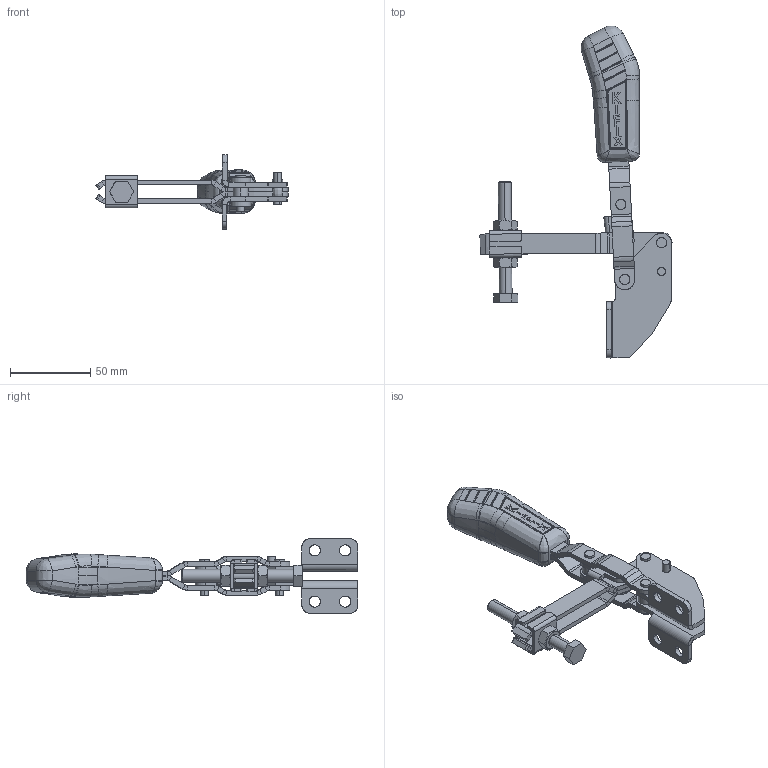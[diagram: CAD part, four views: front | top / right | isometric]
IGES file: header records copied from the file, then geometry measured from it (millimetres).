
Start section: SolidWorks IGES file using analytic representation for surfaces
Global section: file name: C:\Projetos\Grampos\KF-211\KF-211 DB\KF-211 DB.IGS; native system: SolidWorks 2013; preprocessor: SolidWorks 2013; author: Ricardo; date: 140731.095714; units: millimetre
Bounding box: 119.94 x 207.31 x 46.5 mm (x, y, z)
Surface area: 51725.6 mm2 (no closed solid volume)
Topology: 0 solids, 0 shells, 804 faces, 8431 edges, 8418 vertices
Faces by surface type: bspline 515, revolution 289
